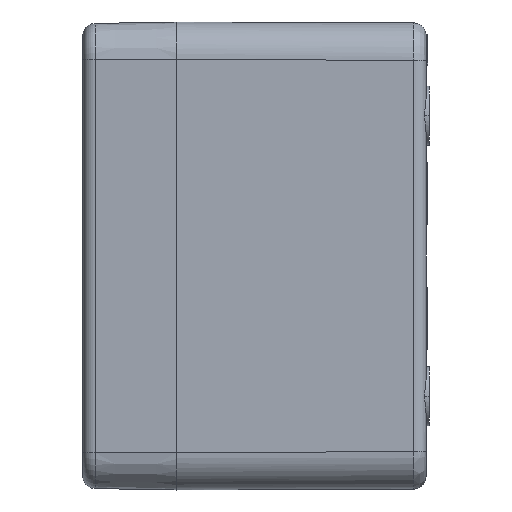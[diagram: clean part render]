
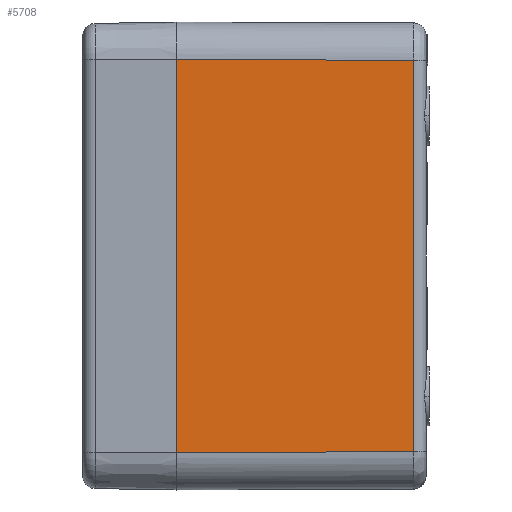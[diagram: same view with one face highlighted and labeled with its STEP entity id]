
A CAD part, left-side view. The second image highlights one B-rep face of the part: STEP entity #5708.
In plain terms, the highlighted planar face has unit normal (-1, -0.004, 0).
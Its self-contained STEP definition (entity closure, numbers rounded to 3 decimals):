
#656=CARTESIAN_POINT('',(-80.,0.,-31.5));
#704=CARTESIAN_POINT('',(-80.,0.,31.5));
#715=DIRECTION('',(0.,0.,-1.));
#716=VECTOR('',#715,63.);
#717=CARTESIAN_POINT('',(-80.,0.,31.5));
#718=LINE('',#717,#716);
#2098=DIRECTION('',(0.,0.,1.));
#2099=VECTOR('',#2098,62.715);
#2100=CARTESIAN_POINT('',(-79.857,-38.007,
-31.358));
#2101=LINE('',#2100,#2099);
#2293=CARTESIAN_POINT('',(-79.857,-38.007,
31.358));
#2298=DIRECTION('',(-0.004,1.,-0.004));
#2299=VECTOR('',#2298,38.008);
#2300=CARTESIAN_POINT('',(-79.857,-38.007,
-31.358));
#2301=LINE('',#2300,#2299);
#2305=DIRECTION('',(-0.004,1.,0.004));
#2306=VECTOR('',#2305,38.008);
#2307=CARTESIAN_POINT('',(-79.857,-38.007,
31.358));
#2308=LINE('',#2307,#2306);
#2312=CARTESIAN_POINT('',(-79.857,-38.007,
-31.358));
#3654=VERTEX_POINT('',#656);
#3659=VERTEX_POINT('',#704);
#3663=VERTEX_POINT('',#2312);
#3677=VERTEX_POINT('',#2293);
#5696=CARTESIAN_POINT('',(-79.925,-20.,0.));
#5697=DIRECTION('',(1.,0.004,0.));
#5698=DIRECTION('',(-0.004,1.,0.));
#5699=AXIS2_PLACEMENT_3D('',#5696,#5697,#5698);
#5700=PLANE('',#5699);
#5701=ORIENTED_EDGE('',*,*,#5401,.F.);
#5703=ORIENTED_EDGE('',*,*,#5702,.T.);
#5704=ORIENTED_EDGE('',*,*,#4148,.F.);
#5705=ORIENTED_EDGE('',*,*,#5689,.F.);
#5706=EDGE_LOOP('',(#5701,#5703,#5704,#5705));
#5707=FACE_OUTER_BOUND('',#5706,.F.);
#4148=EDGE_CURVE('',#3659,#3654,#718,.T.);
#5401=EDGE_CURVE('',#3663,#3677,#2101,.T.);
#5689=EDGE_CURVE('',#3677,#3659,#2308,.T.);
#5702=EDGE_CURVE('',#3663,#3654,#2301,.T.);
#5708=ADVANCED_FACE('',(#5707),#5700,.F.);
